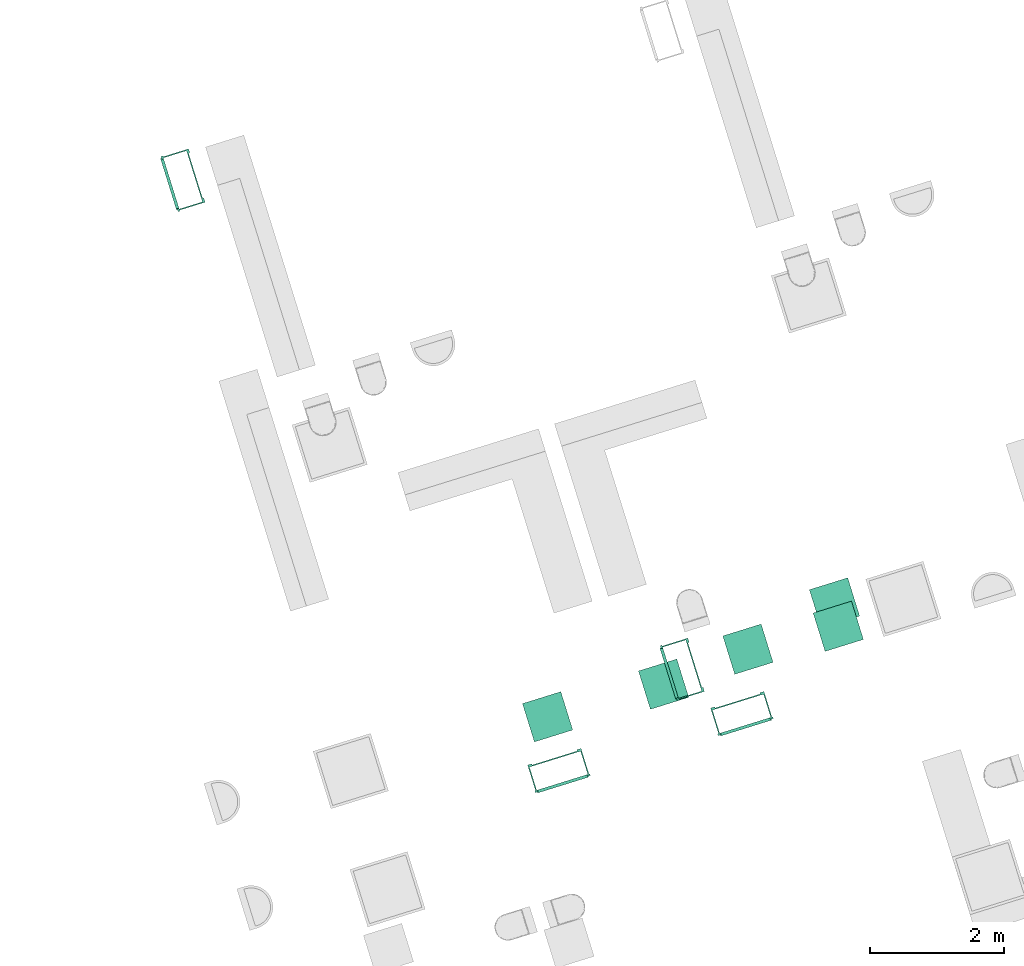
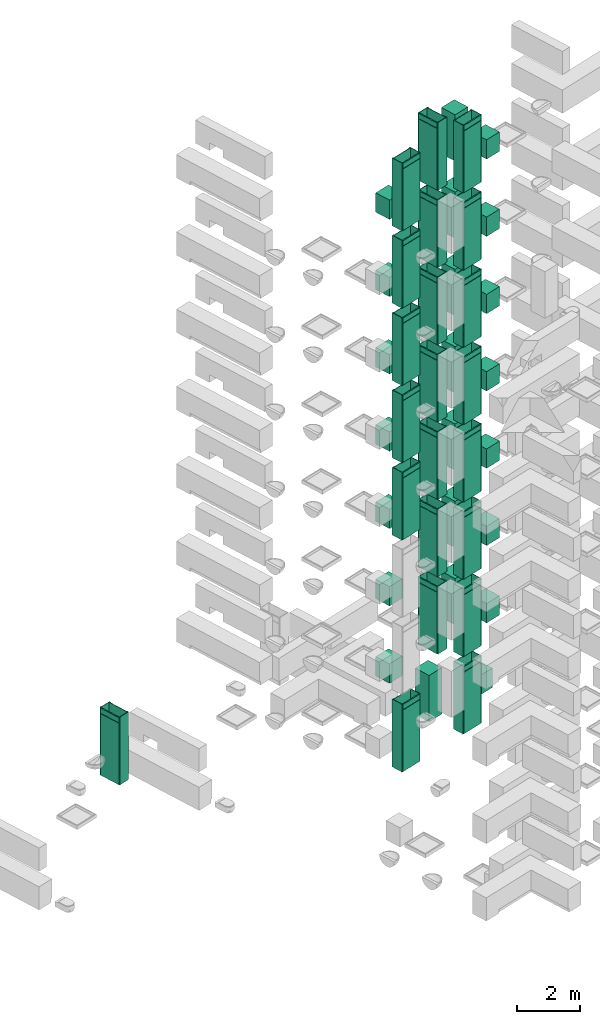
# Not in any storey, part 4 of 20: 22 distribution chamber elements, 15 electric appliances, 8 boilers.
"""IFC4 model written with IfcOpenShell, lengths in metres."""

import ifcopenshell
import ifcopenshell.guid

model = None  # the IFC model being written
_history = None  # IfcOwnerHistory: only IFC2X3 demands one
_inside = {}  # id of a spatial element -> (the spatial element, [elements in it])
_under = {}  # id of a project, library or spatial element -> (it, [spatial elements below it])
_declared = {}  # id of a project -> (the project, [libraries it declares])
_typed = {}  # id of a type object -> (the type object, [elements of that type])
_made_of = {}  # id of a material, layer set ... -> (it, [elements and type objects made of it])


def new_model(schema):
    """Start an empty IFC model of exactly this schema.

    Asked for "IFC4X3", IfcOpenShell would pick the latest addendum, in which some entities
    have other attributes; the version numbers below select the first issue.
    IFC2X3 requires an IfcOwnerHistory on every rooted entity: one is made here for all.
    """
    global model, _history
    if schema == "IFC4X3":
        model = ifcopenshell.file(schema_version=(4, 3, 0, 0))
    else:
        model = ifcopenshell.file(schema=schema)
    _inside.clear()
    _under.clear()
    _declared.clear()
    _typed.clear()
    _made_of.clear()
    _history = None
    if model.schema == "IFC2X3":
        org = make("IfcOrganization", Name="unknown")
        user = make(
            "IfcPersonAndOrganization",
            ThePerson=make("IfcPerson", FamilyName="unknown"),
            TheOrganization=org,
        )
        app = make(
            "IfcApplication",
            ApplicationDeveloper=org,
            Version="unknown",
            ApplicationFullName="unknown",
            ApplicationIdentifier="unknown",
        )
        _history = make(
            "IfcOwnerHistory",
            OwningUser=user,
            OwningApplication=app,
            ChangeAction="ADDED",
            CreationDate=0,
        )
    return model


def make(cls, **values):
    """One entity of the class cls with the attributes given. An attribute that is None is left unset."""
    return model.create_entity(
        cls, **{name: value for name, value in values.items() if value is not None}
    )


def entity(cls, *values):
    """Any entity or typed value of the class cls, its attributes in the order of the schema. None: left unset."""
    e = model.create_entity(cls)
    for i, value in enumerate(values):
        if value is not None:
            e[i] = value
    return e


def rooted(cls, **values):
    """An entity with a GlobalId (a new one), such as an element, a storey or a relation."""
    return make(cls, GlobalId=ifcopenshell.guid.new(), OwnerHistory=_history, **values)


def si_unit(unit_type, name, prefix=None):
    """IfcSIUnit, for example si_unit("LENGTHUNIT", "METRE", prefix="MILLI")."""
    return make("IfcSIUnit", UnitType=unit_type, Prefix=prefix, Name=name)


def converted_unit(unit_type, name, factor, base, dimensions=None, offset=None):
    """IfcConversionBasedUnit, such as the inch: factor (a typed value) times the base unit."""
    return make(
        "IfcConversionBasedUnit"
        if offset is None
        else "IfcConversionBasedUnitWithOffset",
        ConversionOffset=offset,
        Dimensions=None
        if dimensions is None
        else entity("IfcDimensionalExponents", *dimensions),
        UnitType=unit_type,
        Name=name,
        ConversionFactor=make(
            "IfcMeasureWithUnit", ValueComponent=factor, UnitComponent=base
        ),
    )


def assignment(units):
    """IfcUnitAssignment: the units of a project."""
    return None if units is None else make("IfcUnitAssignment", Units=units)


def point(xyz):
    """IfcCartesianPoint."""
    return None if xyz is None else make("IfcCartesianPoint", Coordinates=xyz)


def direction(xyz):
    """IfcDirection."""
    return None if xyz is None else make("IfcDirection", DirectionRatios=xyz)


def frame(location, z_axis=None, x_axis=None):
    """IfcAxis2Placement3D, a coordinate frame: its origin and axes. An axis left out is left unset."""
    return make(
        "IfcAxis2Placement3D",
        Location=point(location),
        Axis=direction(z_axis),
        RefDirection=direction(x_axis),
    )


def origin():
    """The frame at (0, 0, 0) with its axes left unset."""
    return frame((0.0, 0.0, 0.0))


def place(relative_to, where):
    """IfcLocalPlacement: puts the frame where relative to a parent placement (None: the world)."""
    return make(
        "IfcLocalPlacement", PlacementRelTo=relative_to, RelativePlacement=where
    )


def context(
    kind, dimensions, precision=None, world=None, true_north=None, identifier=None
):
    """IfcGeometricRepresentationContext, for example the 3D "Model" context."""
    return make(
        "IfcGeometricRepresentationContext",
        ContextIdentifier=identifier,
        ContextType=kind,
        CoordinateSpaceDimension=dimensions,
        Precision=precision,
        WorldCoordinateSystem=world,
        TrueNorth=true_north,
    )


def subcontext(parent, identifier, kind, view, scale=None):
    """IfcGeometricRepresentationSubContext, for example "Body" below "Model"."""
    return make(
        "IfcGeometricRepresentationSubContext",
        ContextIdentifier=identifier,
        ContextType=kind,
        ParentContext=parent,
        TargetScale=scale,
        TargetView=view,
    )


def project(units=None, contexts=None):
    """IfcProject with its units and contexts."""
    return rooted(
        "IfcProject",
        Name="project",
        RepresentationContexts=contexts,
        UnitsInContext=assignment(units),
    )


def point_list(points):
    """IfcCartesianPointList2D or 3D."""
    cls = (
        "IfcCartesianPointList2D" if len(points[0]) == 2 else "IfcCartesianPointList3D"
    )
    return make(cls, CoordList=points)


def indexed_curve(points, segments=None, self_intersect=None):
    """IfcIndexedPolyCurve: lines and arcs through numbered points (the first is 1)."""
    return make(
        "IfcIndexedPolyCurve",
        Points=point_list(points),
        Segments=segments,
        SelfIntersect=self_intersect,
    )


def outline(outer, holes=None, kind="AREA"):
    """IfcArbitraryClosedProfileDef: a profile drawn as a closed curve; with holes, ...WithVoids."""
    if holes is None:
        return make("IfcArbitraryClosedProfileDef", ProfileType=kind, OuterCurve=outer)
    return make(
        "IfcArbitraryProfileDefWithVoids",
        ProfileType=kind,
        OuterCurve=outer,
        InnerCurves=holes,
    )


def extrude(swept, where, along, depth):
    """IfcExtrudedAreaSolid: the profile swept, set in the frame where, extruded along a direction by depth."""
    return make(
        "IfcExtrudedAreaSolid",
        SweptArea=swept,
        Position=where,
        ExtrudedDirection=direction(along),
        Depth=depth,
    )


def shape(context_of_items, identifier, shape_type, items):
    """IfcShapeRepresentation: the items that make up one representation, for example the "Body"."""
    return make(
        "IfcShapeRepresentation",
        ContextOfItems=context_of_items,
        RepresentationIdentifier=identifier,
        RepresentationType=shape_type,
        Items=items,
    )


def source(mapping_origin, context_of_items, identifier, shape_type, items):
    """IfcRepresentationMap: a shape defined once, which mapped items show again and again."""
    return make(
        "IfcRepresentationMap",
        MappingOrigin=mapping_origin,
        MappedRepresentation=shape(context_of_items, identifier, shape_type, items),
    )


def transform(
    local_origin,
    x_axis=None,
    y_axis=None,
    z_axis=None,
    scale=None,
    scale2=None,
    scale3=None,
    uniform=True,
):
    """IfcCartesianTransformationOperator3D, or its non-uniform kind. x_axis, y_axis, z_axis: its Axis1, 2, 3."""
    if uniform:
        return make(
            "IfcCartesianTransformationOperator3D",
            Axis1=direction(x_axis),
            Axis2=direction(y_axis),
            LocalOrigin=point(local_origin),
            Scale=scale,
            Axis3=direction(z_axis),
        )
    return make(
        "IfcCartesianTransformationOperator3DnonUniform",
        Axis1=direction(x_axis),
        Axis2=direction(y_axis),
        LocalOrigin=point(local_origin),
        Scale=scale,
        Axis3=direction(z_axis),
        Scale2=scale2,
        Scale3=scale3,
    )


def mapped(mapping_source, mapping_target):
    """IfcMappedItem: shows the shape of a source again, moved by a transform."""
    return make(
        "IfcMappedItem", MappingSource=mapping_source, MappingTarget=mapping_target
    )


def material(Name=None, Category=None):
    """IfcMaterial."""
    return make("IfcMaterial", Name=Name, Category=Category)


def made_of(thing, what):
    """Note that an element or type object is made of a material, layer set ...; save() writes the relation."""
    if what is not None:
        _made_of.setdefault(what.id(), (what, []))[1].append(thing)
    return thing


def type_object(cls, material=None, **own):
    """A type object (cls), such as IfcWallType, which elements share."""
    return made_of(rooted(cls, **own), material)


def type_shapes(of_type, sources):
    """Give a type object the sources (RepresentationMaps) that its elements show as mapped items."""
    of_type.RepresentationMaps = sources


def element(
    cls,
    number,
    at=None,
    inside=None,
    cuts=None,
    type_object=None,
    material=None,
    context=None,
    identifier="Body",
    shape_type=None,
    held_by="IfcProductDefinitionShape",
    body=None,
    shapes=None,
    **own,
):
    """One element of the class cls, such as IfcWall. Its Tag is "e" and its number.

    at: its placement. inside: the storey or other place that contains it. cuts: it is an
    opening in that element (IfcRelVoidsElement). A single representation is given by context,
    identifier, shape_type and body (its items); several are given by shapes. held_by: the class
    of the entity that holds the representations. save() writes the other relations.
    """
    e = rooted(cls, Tag="e%d" % number, ObjectPlacement=at, **own)
    if body is not None:
        shapes = [shape(context, identifier, shape_type, body)]
    if shapes is not None:
        e.Representation = make(held_by, Representations=shapes)
    if inside is not None:
        _inside.setdefault(inside.id(), (inside, []))[1].append(e)
    if cuts is not None:
        rooted(
            "IfcRelVoidsElement", RelatingBuildingElement=cuts, RelatedOpeningElement=e
        )
    if type_object is not None:
        _typed.setdefault(type_object.id(), (type_object, []))[1].append(e)
    return made_of(e, material)


def aggregate(whole, parts):
    """IfcRelAggregates: a whole, such as a stair, and the parts it consists of."""
    return rooted("IfcRelAggregates", RelatingObject=whole, RelatedObjects=parts)


def save(model, path):
    """Write the relations noted so far, then the file.

    IfcRelAggregates (storeys below a building ...), IfcRelContainedInSpatialStructure (elements
    in a storey), IfcRelDefinesByType, IfcRelAssociatesMaterial and IfcRelDeclares: one each for
    every whole, place, type object, material and project.
    """
    for whole, parts in _under.values():
        aggregate(whole, parts)
    for where, things in _inside.values():
        rooted(
            "IfcRelContainedInSpatialStructure",
            RelatedElements=things,
            RelatingStructure=where,
        )
    for kind, things in _typed.values():
        rooted("IfcRelDefinesByType", RelatedObjects=things, RelatingType=kind)
    for what, things in _made_of.values():
        rooted("IfcRelAssociatesMaterial", RelatedObjects=things, RelatingMaterial=what)
    for by, libraries in _declared.values():
        rooted("IfcRelDeclares", RelatingContext=by, RelatedDefinitions=libraries)
    model.write(path)


model = new_model("IFC4")

# Units and contexts
model_context = context("Model", 3, precision=1e-05, world=origin(), true_north=direction((6.12323399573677e-17, 1.0)))
body_context = subcontext(model_context, "Body", "Model", "MODEL_VIEW")
ifc_project = project(units=[si_unit("LENGTHUNIT", "METRE"), si_unit("AREAUNIT", "SQUARE_METRE"), si_unit("VOLUMEUNIT", "CUBIC_METRE"), converted_unit("PLANEANGLEUNIT", "DEGREE", entity("IfcPlaneAngleMeasure", 0.0174532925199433), si_unit("PLANEANGLEUNIT", "RADIAN"), dimensions=[0, 0, 0, 0, 0, 0, 0])], contexts=[model_context])

# Distribution chamber elements
ifc_material = material(Name="<Unnamed>")
distribution_chamber_element_type = type_object("IfcDistributionChamberElementType", Name="NLRS_61_GM_UN_Jonka meterkast_gen:Jonka_kast", PredefinedType="METERCHAMBER", material=ifc_material)
shared_shape_1 = source(origin(), body_context, "Body", "SweptSolid", [
    extrude(outline(indexed_curve([(-0.00925000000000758, -0.0230000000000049), (0.0177500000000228, -0.0230000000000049), (0.0177500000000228, 0.0230000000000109), (-0.00925000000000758, 0.0230000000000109), (-0.00925000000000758, 0.00899999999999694), (0.000749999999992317, 0.00899999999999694), (0.000749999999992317, -0.00900000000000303), (-0.00925000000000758, -0.00900000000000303), (-0.00925000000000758, -0.0230000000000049)], self_intersect=False)), frame((-0.408999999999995, -0.409249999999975, 0.0), z_axis=(0.0, 0.0, 1.0), x_axis=(0.0, -1.0, 0.0)), (0.0, 0.0, 1.0), 2.63),
    extrude(outline(indexed_curve([(-0.0092500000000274, -0.0230000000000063), (0.0177500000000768, -0.0230000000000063), (0.0177500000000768, 0.0229999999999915), (-0.00925000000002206, 0.0229999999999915), (-0.00925000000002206, 0.00900000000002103), (0.000749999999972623, 0.00900000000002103), (0.000749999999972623, -0.00900000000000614), (-0.0092500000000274, -0.00900000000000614), (-0.0092500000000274, -0.0230000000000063)], self_intersect=False)), frame((0.409000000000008, -0.409249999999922, 0.0), z_axis=(0.0, 0.0, 1.0), x_axis=(0.0, -1.0, 0.0)), (0.0, 0.0, 1.0), 2.63),
    extrude(outline(indexed_curve([(-0.204999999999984, -0.00899999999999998), (0.204999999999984, -0.00899999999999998), (0.204999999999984, 0.00899999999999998), (-0.204999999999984, 0.00899999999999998), (-0.204999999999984, -0.00899999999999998)], self_intersect=False)), frame((-0.408999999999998, -0.204999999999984, 0.0), z_axis=(0.0, 0.0, 1.0), x_axis=(0.0, -1.0, 0.0)), (0.0, 0.0, 1.0), 2.63),
    extrude(outline(indexed_curve([(-0.204999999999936, -0.00900000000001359), (0.204999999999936, -0.00900000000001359), (0.204999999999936, 0.00900000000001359), (-0.204999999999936, 0.00900000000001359), (-0.204999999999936, -0.00900000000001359)], self_intersect=False)), frame((0.409000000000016, -0.204999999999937, 0.0), z_axis=(0.0, 0.0, 1.0), x_axis=(0.0, -1.0, 0.0)), (0.0, 0.0, 1.0), 2.63),
    extrude(outline(indexed_curve([(-0.399999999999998, -0.00799999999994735), (0.399999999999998, -0.00799999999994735), (0.399999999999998, 0.00799999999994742), (-0.399999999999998, 0.00799999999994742), (-0.399999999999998, -0.00799999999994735)], self_intersect=False)), frame((0.0, -0.434999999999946, 0.00999999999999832), z_axis=(0.0, 0.0, 1.0), x_axis=(-1.0, 0.0, 0.0)), (0.0, 0.0, 1.0), 2.39),
    extrude(outline(indexed_curve([(-0.400000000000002, -0.00899999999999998), (0.400000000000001, -0.00899999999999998), (0.400000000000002, 0.00899999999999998), (-0.400000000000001, 0.00899999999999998), (-0.400000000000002, -0.00899999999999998)], self_intersect=False)), frame((0.0, -0.0280000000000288, 0.0), z_axis=(0.0, 0.0, 1.0), x_axis=(-1.0, 0.0, 0.0)), (0.0, 0.0, 1.0), 2.63),
    extrude(outline(indexed_curve([(-0.023, -0.0095), (0.023, -0.0095), (0.023, 0.0095), (-0.023, 0.0095), (-0.023, -0.0095)], self_intersect=False)), frame((-0.376999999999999, -0.0095, 0.0), z_axis=(0.0, 0.0, 1.0), x_axis=(-1.0, 0.0, 0.0)), (0.0, 0.0, 1.0), 2.63),
    extrude(outline(indexed_curve([(-0.022999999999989, -0.0095), (0.022999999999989, -0.0095), (0.022999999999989, 0.0095), (-0.022999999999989, 0.0095), (-0.022999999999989, -0.0095)], self_intersect=False)), frame((0.377000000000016, -0.00950000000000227, 0.0), z_axis=(0.0, 0.0, 1.0), x_axis=(-1.0, 0.0, 0.0)), (0.0, 0.0, 1.0), 2.63),
    extrude(outline(indexed_curve([(-0.399999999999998, -0.00799999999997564), (0.399999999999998, -0.00799999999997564), (0.399999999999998, 0.00799999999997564), (-0.399999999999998, 0.00799999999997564), (-0.399999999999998, -0.00799999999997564)], self_intersect=False)), frame((0.0, -0.434999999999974, 2.41800000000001), z_axis=(0.0, 0.0, 1.0), x_axis=(-1.0, 0.0, 0.0)), (0.0, 0.0, 1.0), 0.197000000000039),
    extrude(outline(indexed_curve([(-0.0230000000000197, -0.0177500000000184), (0.0230000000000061, -0.0177500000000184), (0.0230000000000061, 0.00925000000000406), (0.00900000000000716, 0.00925000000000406), (0.00900000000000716, -0.00074999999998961), (-0.00899999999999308, -0.00074999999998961), (-0.00899999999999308, 0.00925000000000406), (-0.0230000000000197, 0.00925000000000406), (-0.0230000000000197, -0.0177500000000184)], self_intersect=False)), frame((-0.386, -0.409249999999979, 2.59200000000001), z_axis=(1.0, 0.0, 0.0), x_axis=(0.0, 0.0, -1.0)), (0.0, 0.0, 1.0), 0.772),
    extrude(outline(indexed_curve([(-0.0229999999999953, -0.0177500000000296), (0.0229999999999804, -0.0177500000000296), (0.0229999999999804, 0.00925000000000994), (0.00900000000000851, 0.00925000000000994), (0.00900000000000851, -0.000749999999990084), (-0.00899999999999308, -0.000749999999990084), (-0.00899999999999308, 0.00925000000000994), (-0.0229999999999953, 0.00925000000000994), (-0.0229999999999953, -0.0177500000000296)], self_intersect=False)), frame((-0.386, -0.40924999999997, 2.40900000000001), z_axis=(1.0, 0.0, 0.0), x_axis=(0.0, 0.0, -1.0)), (0.0, 0.0, 1.0), 0.772),
    extrude(outline(indexed_curve([(-0.0230000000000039, -0.0177500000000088), (0.0230000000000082, -0.0177500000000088), (0.0230000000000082, 0.00925000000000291), (0.00899999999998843, 0.00925000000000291), (0.00899999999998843, -0.000749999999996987), (-0.00899999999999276, -0.000749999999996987), (-0.00899999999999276, 0.00925000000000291), (-0.0230000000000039, 0.00925000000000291), (-0.0230000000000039, -0.0177500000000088)], self_intersect=False)), frame((-0.386, -0.409249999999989, 0.0229999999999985), z_axis=(1.0, 0.0, 0.0), x_axis=(0.0, 0.0, -1.0)), (0.0, 0.0, 1.0), 0.772),
])
type_shapes(distribution_chamber_element_type, [shared_shape_1])
placement_1 = place(None, frame((13.1347999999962, 11.9886000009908, 0.0), z_axis=(0.0, 0.0, 1.0), x_axis=(0.954770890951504, 0.297342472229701, 0.0)))
placement_2 = place(placement_1, origin())
placement_3 = place(placement_2, origin())
placement_4 = place(placement_3, origin())
distribution_chamber_element_1_placement = place(placement_4, frame((12.3750000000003, 31.957, 0.0), z_axis=(0.0, 0.0, 1.0), x_axis=(0.0, -1.0, 0.0)))
element("IfcDistributionChamberElement", 1, at=distribution_chamber_element_1_placement, type_object=distribution_chamber_element_type, material=ifc_material, Name="NLRS_61_GM_UN_Jonka meterkast_gen:Jonka_kast", ObjectType="NLRS_61_GM_UN_Jonka meterkast_gen:Jonka_kast", PredefinedType="METERCHAMBER", context=body_context, shape_type="MappedRepresentation", body=[
    mapped(shared_shape_1, transform((0.0, 0.0, 0.0), scale=1.0)),
])
placement_5 = place(placement_2, frame((0.0, 0.0, 6.9)))
placement_6 = place(placement_5, origin())
distribution_chamber_element_2_placement = place(placement_6, frame((17.3250000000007, 22.7570000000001, 0.0), z_axis=(0.0, 0.0, 1.0), x_axis=(0.0, -1.0, 0.0)))
element("IfcDistributionChamberElement", 2, at=distribution_chamber_element_2_placement, type_object=distribution_chamber_element_type, material=ifc_material, Name="NLRS_61_GM_UN_Jonka meterkast_gen:Jonka_kast", ObjectType="NLRS_61_GM_UN_Jonka meterkast_gen:Jonka_kast", PredefinedType="METERCHAMBER", context=body_context, shape_type="MappedRepresentation", body=[
    mapped(shared_shape_1, transform((0.0, 0.0, 0.0), scale=1.0)),
])
placement_7 = place(placement_2, frame((0.0, 0.0, 9.9)))
placement_8 = place(placement_7, origin())
distribution_chamber_element_3_placement = place(placement_8, frame((17.3250000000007, 22.7570000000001, 0.0), z_axis=(0.0, 0.0, 1.0), x_axis=(0.0, -1.0, 0.0)))
element("IfcDistributionChamberElement", 3, at=distribution_chamber_element_3_placement, type_object=distribution_chamber_element_type, material=ifc_material, Name="NLRS_61_GM_UN_Jonka meterkast_gen:Jonka_kast", ObjectType="NLRS_61_GM_UN_Jonka meterkast_gen:Jonka_kast", PredefinedType="METERCHAMBER", context=body_context, shape_type="MappedRepresentation", body=[
    mapped(shared_shape_1, transform((0.0, 0.0, 0.0), scale=1.0)),
])
placement_9 = place(placement_2, frame((0.0, 0.0, 12.9)))
placement_10 = place(placement_9, origin())
distribution_chamber_element_4_placement = place(placement_10, frame((17.3250000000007, 22.7570000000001, 0.0), z_axis=(0.0, 0.0, 1.0), x_axis=(0.0, -1.0, 0.0)))
element("IfcDistributionChamberElement", 4, at=distribution_chamber_element_4_placement, type_object=distribution_chamber_element_type, material=ifc_material, Name="NLRS_61_GM_UN_Jonka meterkast_gen:Jonka_kast", ObjectType="NLRS_61_GM_UN_Jonka meterkast_gen:Jonka_kast", PredefinedType="METERCHAMBER", context=body_context, shape_type="MappedRepresentation", body=[
    mapped(shared_shape_1, transform((0.0, 0.0, 0.0), scale=1.0)),
])
placement_11 = place(placement_2, frame((0.0, 0.0, 15.9)))
placement_12 = place(placement_11, origin())
distribution_chamber_element_5_placement = place(placement_12, frame((17.3250000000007, 22.7570000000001, 0.0), z_axis=(0.0, 0.0, 1.0), x_axis=(0.0, -1.0, 0.0)))
element("IfcDistributionChamberElement", 5, at=distribution_chamber_element_5_placement, type_object=distribution_chamber_element_type, material=ifc_material, Name="NLRS_61_GM_UN_Jonka meterkast_gen:Jonka_kast", ObjectType="NLRS_61_GM_UN_Jonka meterkast_gen:Jonka_kast", PredefinedType="METERCHAMBER", context=body_context, shape_type="MappedRepresentation", body=[
    mapped(shared_shape_1, transform((0.0, 0.0, 0.0), scale=1.0)),
])
placement_13 = place(placement_2, frame((0.0, 0.0, 18.9)))
placement_14 = place(placement_13, origin())
distribution_chamber_element_6_placement = place(placement_14, frame((17.3250000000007, 22.7570000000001, 0.0), z_axis=(0.0, 0.0, 1.0), x_axis=(0.0, -1.0, 0.0)))
element("IfcDistributionChamberElement", 6, at=distribution_chamber_element_6_placement, type_object=distribution_chamber_element_type, material=ifc_material, Name="NLRS_61_GM_UN_Jonka meterkast_gen:Jonka_kast", ObjectType="NLRS_61_GM_UN_Jonka meterkast_gen:Jonka_kast", PredefinedType="METERCHAMBER", context=body_context, shape_type="MappedRepresentation", body=[
    mapped(shared_shape_1, transform((0.0, 0.0, 0.0), scale=1.0)),
])
placement_15 = place(placement_2, frame((0.0, 0.0, 21.9)))
placement_16 = place(placement_15, origin())
distribution_chamber_element_7_placement = place(placement_16, frame((17.3250000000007, 22.7570000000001, 0.0), z_axis=(0.0, 0.0, 1.0), x_axis=(0.0, -1.0, 0.0)))
element("IfcDistributionChamberElement", 7, at=distribution_chamber_element_7_placement, type_object=distribution_chamber_element_type, material=ifc_material, Name="NLRS_61_GM_UN_Jonka meterkast_gen:Jonka_kast", ObjectType="NLRS_61_GM_UN_Jonka meterkast_gen:Jonka_kast", PredefinedType="METERCHAMBER", context=body_context, shape_type="MappedRepresentation", body=[
    mapped(shared_shape_1, transform((0.0, 0.0, 0.0), scale=1.0)),
])
placement_17 = place(placement_2, frame((0.0, 0.0, 24.9)))
placement_18 = place(placement_17, origin())
distribution_chamber_element_8_placement = place(placement_18, frame((17.3250000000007, 22.7570000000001, 0.0), z_axis=(0.0, 0.0, 1.0), x_axis=(0.0, -1.0, 0.0)))
element("IfcDistributionChamberElement", 8, at=distribution_chamber_element_8_placement, type_object=distribution_chamber_element_type, material=ifc_material, Name="NLRS_61_GM_UN_Jonka meterkast_gen:Jonka_kast", ObjectType="NLRS_61_GM_UN_Jonka meterkast_gen:Jonka_kast", PredefinedType="METERCHAMBER", context=body_context, shape_type="MappedRepresentation", body=[
    mapped(shared_shape_1, transform((0.0, 0.0, 0.0), scale=1.0)),
])
placement_19 = place(placement_9, origin())
distribution_chamber_element_9_placement = place(placement_19, frame((14.8930000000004, 22.0750000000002, 0.0)))
element("IfcDistributionChamberElement", 9, at=distribution_chamber_element_9_placement, type_object=distribution_chamber_element_type, material=ifc_material, Name="NLRS_61_GM_UN_Jonka meterkast_gen:Jonka_kast", ObjectType="NLRS_61_GM_UN_Jonka meterkast_gen:Jonka_kast", PredefinedType="METERCHAMBER", context=body_context, shape_type="MappedRepresentation", body=[
    mapped(shared_shape_1, transform((0.0, 0.0, 0.0), scale=1.0)),
])
placement_20 = place(placement_11, origin())
distribution_chamber_element_10_placement = place(placement_20, frame((14.8930000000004, 22.0750000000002, 0.0)))
element("IfcDistributionChamberElement", 10, at=distribution_chamber_element_10_placement, type_object=distribution_chamber_element_type, material=ifc_material, Name="NLRS_61_GM_UN_Jonka meterkast_gen:Jonka_kast", ObjectType="NLRS_61_GM_UN_Jonka meterkast_gen:Jonka_kast", PredefinedType="METERCHAMBER", context=body_context, shape_type="MappedRepresentation", body=[
    mapped(shared_shape_1, transform((0.0, 0.0, 0.0), scale=1.0)),
])
placement_21 = place(placement_13, origin())
distribution_chamber_element_11_placement = place(placement_21, frame((14.8930000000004, 22.0750000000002, 0.0)))
element("IfcDistributionChamberElement", 11, at=distribution_chamber_element_11_placement, type_object=distribution_chamber_element_type, material=ifc_material, Name="NLRS_61_GM_UN_Jonka meterkast_gen:Jonka_kast", ObjectType="NLRS_61_GM_UN_Jonka meterkast_gen:Jonka_kast", PredefinedType="METERCHAMBER", context=body_context, shape_type="MappedRepresentation", body=[
    mapped(shared_shape_1, transform((0.0, 0.0, 0.0), scale=1.0)),
])
placement_22 = place(placement_15, origin())
distribution_chamber_element_12_placement = place(placement_22, frame((14.8930000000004, 22.0750000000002, 0.0)))
element("IfcDistributionChamberElement", 12, at=distribution_chamber_element_12_placement, type_object=distribution_chamber_element_type, material=ifc_material, Name="NLRS_61_GM_UN_Jonka meterkast_gen:Jonka_kast", ObjectType="NLRS_61_GM_UN_Jonka meterkast_gen:Jonka_kast", PredefinedType="METERCHAMBER", context=body_context, shape_type="MappedRepresentation", body=[
    mapped(shared_shape_1, transform((0.0, 0.0, 0.0), scale=1.0)),
])
placement_23 = place(placement_17, origin())
distribution_chamber_element_13_placement = place(placement_23, frame((14.8930000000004, 22.0750000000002, 0.0)))
element("IfcDistributionChamberElement", 13, at=distribution_chamber_element_13_placement, type_object=distribution_chamber_element_type, material=ifc_material, Name="NLRS_61_GM_UN_Jonka meterkast_gen:Jonka_kast", ObjectType="NLRS_61_GM_UN_Jonka meterkast_gen:Jonka_kast", PredefinedType="METERCHAMBER", context=body_context, shape_type="MappedRepresentation", body=[
    mapped(shared_shape_1, transform((0.0, 0.0, 0.0), scale=1.0)),
])
placement_24 = place(placement_2, frame((0.0, 0.0, 3.9)))
placement_25 = place(placement_24, origin())
distribution_chamber_element_14_placement = place(placement_25, frame((14.8930000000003, 22.0749999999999, 0.0)))
element("IfcDistributionChamberElement", 14, at=distribution_chamber_element_14_placement, type_object=distribution_chamber_element_type, material=ifc_material, Name="NLRS_61_GM_UN_Jonka meterkast_gen:Jonka_kast", ObjectType="NLRS_61_GM_UN_Jonka meterkast_gen:Jonka_kast", PredefinedType="METERCHAMBER", context=body_context, shape_type="MappedRepresentation", body=[
    mapped(shared_shape_1, transform((0.0, 0.0, 0.0), scale=1.0)),
])

# Boilers
boiler_type = type_object("IfcBoilerType", Name="NLRS_51_ME_WB_warmtepomp_gen:generiek", PredefinedType="NOTDEFINED", material=ifc_material)
shared_shape_2 = source(origin(), body_context, "Body", "SweptSolid", [
    extrude(outline(indexed_curve([(-0.299999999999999, -0.300000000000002), (0.299999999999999, -0.300000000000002), (0.299999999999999, 0.300000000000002), (-0.299999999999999, 0.300000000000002), (-0.299999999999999, -0.300000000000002)], self_intersect=False)), frame((0.124999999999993, 0.350000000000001, 0.6), z_axis=(0.0, 0.0, 1.0), x_axis=(-1.0, 0.0, 0.0)), (0.0, 0.0, 1.0), 1.8),
])
type_shapes(boiler_type, [shared_shape_2])
placement_26 = place(placement_5, origin())
boiler_1_placement = place(placement_26, frame((17.7840000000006, 22.8750000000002, 0.0), z_axis=(0.0, 0.0, 1.0), x_axis=(0.0, -1.0, 0.0)))
element("IfcBoiler", 15, at=boiler_1_placement, type_object=boiler_type, material=ifc_material, Name="NLRS_51_ME_WB_warmtepomp_gen:generiek", ObjectType="NLRS_51_ME_WB_warmtepomp_gen:generiek", PredefinedType="NOTDEFINED", context=body_context, shape_type="MappedRepresentation", body=[
    mapped(shared_shape_2, transform((0.0, 0.0, 0.0), scale=1.0)),
])
placement_27 = place(placement_7, origin())
boiler_2_placement = place(placement_27, frame((17.7840000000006, 22.8750000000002, 0.0), z_axis=(0.0, 0.0, 1.0), x_axis=(0.0, -1.0, 0.0)))
element("IfcBoiler", 16, at=boiler_2_placement, type_object=boiler_type, material=ifc_material, Name="NLRS_51_ME_WB_warmtepomp_gen:generiek", ObjectType="NLRS_51_ME_WB_warmtepomp_gen:generiek", PredefinedType="NOTDEFINED", context=body_context, shape_type="MappedRepresentation", body=[
    mapped(shared_shape_2, transform((0.0, 0.0, 0.0), scale=1.0)),
])
placement_28 = place(placement_9, origin())
boiler_3_placement = place(placement_28, frame((17.7840000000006, 22.8750000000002, 0.0), z_axis=(0.0, 0.0, 1.0), x_axis=(0.0, -1.0, 0.0)))
element("IfcBoiler", 17, at=boiler_3_placement, type_object=boiler_type, material=ifc_material, Name="NLRS_51_ME_WB_warmtepomp_gen:generiek", ObjectType="NLRS_51_ME_WB_warmtepomp_gen:generiek", PredefinedType="NOTDEFINED", context=body_context, shape_type="MappedRepresentation", body=[
    mapped(shared_shape_2, transform((0.0, 0.0, 0.0), scale=1.0)),
])
placement_29 = place(placement_11, origin())
boiler_4_placement = place(placement_29, frame((17.7840000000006, 22.8750000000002, 0.0), z_axis=(0.0, 0.0, 1.0), x_axis=(0.0, -1.0, 0.0)))
element("IfcBoiler", 18, at=boiler_4_placement, type_object=boiler_type, material=ifc_material, Name="NLRS_51_ME_WB_warmtepomp_gen:generiek", ObjectType="NLRS_51_ME_WB_warmtepomp_gen:generiek", PredefinedType="NOTDEFINED", context=body_context, shape_type="MappedRepresentation", body=[
    mapped(shared_shape_2, transform((0.0, 0.0, 0.0), scale=1.0)),
])
placement_30 = place(placement_13, origin())
boiler_5_placement = place(placement_30, frame((17.7840000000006, 22.8750000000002, 0.0), z_axis=(0.0, 0.0, 1.0), x_axis=(0.0, -1.0, 0.0)))
element("IfcBoiler", 19, at=boiler_5_placement, type_object=boiler_type, material=ifc_material, Name="NLRS_51_ME_WB_warmtepomp_gen:generiek", ObjectType="NLRS_51_ME_WB_warmtepomp_gen:generiek", PredefinedType="NOTDEFINED", context=body_context, shape_type="MappedRepresentation", body=[
    mapped(shared_shape_2, transform((0.0, 0.0, 0.0), scale=1.0)),
])
placement_31 = place(placement_15, origin())
boiler_6_placement = place(placement_31, frame((17.7840000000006, 22.8750000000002, 0.0), z_axis=(0.0, 0.0, 1.0), x_axis=(0.0, -1.0, 0.0)))
element("IfcBoiler", 20, at=boiler_6_placement, type_object=boiler_type, material=ifc_material, Name="NLRS_51_ME_WB_warmtepomp_gen:generiek", ObjectType="NLRS_51_ME_WB_warmtepomp_gen:generiek", PredefinedType="NOTDEFINED", context=body_context, shape_type="MappedRepresentation", body=[
    mapped(shared_shape_2, transform((0.0, 0.0, 0.0), scale=1.0)),
])
placement_32 = place(placement_17, origin())
boiler_7_placement = place(placement_32, frame((17.7840000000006, 22.8750000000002, 0.0), z_axis=(0.0, 0.0, 1.0), x_axis=(0.0, -1.0, 0.0)))
element("IfcBoiler", 21, at=boiler_7_placement, type_object=boiler_type, material=ifc_material, Name="NLRS_51_ME_WB_warmtepomp_gen:generiek", ObjectType="NLRS_51_ME_WB_warmtepomp_gen:generiek", PredefinedType="NOTDEFINED", context=body_context, shape_type="MappedRepresentation", body=[
    mapped(shared_shape_2, transform((0.0, 0.0, 0.0), scale=1.0)),
])

# Electric appliances
electric_appliance_type = type_object("IfcElectricApplianceType", Name="NLRS_85_SE_UN_opstelplaats wasmachine_gen:wasdroger", PredefinedType="TUMBLEDRYER", material=ifc_material)
shared_shape_3 = source(origin(), body_context, "Body", "SweptSolid", [
    extrude(outline(indexed_curve([(-0.299999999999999, -0.3), (0.299999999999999, -0.3), (0.299999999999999, 0.3), (-0.299999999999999, 0.3), (-0.299999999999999, -0.3)], self_intersect=False)), frame((0.0, 0.349999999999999, 0.0), z_axis=(0.0, 0.0, 1.0), x_axis=(0.0, 1.0, 0.0)), (0.0, 0.0, 1.0), 0.75026866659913),
])
type_shapes(electric_appliance_type, [shared_shape_3])
electric_appliance_1_placement = place(placement_26, frame((19.5250000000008, 22.3250000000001, 0.0)))
element("IfcElectricAppliance", 22, at=electric_appliance_1_placement, type_object=electric_appliance_type, material=ifc_material, Name="NLRS_85_SE_UN_opstelplaats wasmachine_gen:wasdroger", ObjectType="NLRS_85_SE_UN_opstelplaats wasmachine_gen:wasdroger", PredefinedType="TUMBLEDRYER", context=body_context, shape_type="MappedRepresentation", body=[
    mapped(shared_shape_3, transform((0.0, 0.0, 0.0), scale=1.0)),
])
electric_appliance_2_placement = place(placement_27, frame((19.5250000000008, 22.3250000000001, 0.0)))
element("IfcElectricAppliance", 23, at=electric_appliance_2_placement, type_object=electric_appliance_type, material=ifc_material, Name="NLRS_85_SE_UN_opstelplaats wasmachine_gen:wasdroger", ObjectType="NLRS_85_SE_UN_opstelplaats wasmachine_gen:wasdroger", PredefinedType="TUMBLEDRYER", context=body_context, shape_type="MappedRepresentation", body=[
    mapped(shared_shape_3, transform((0.0, 0.0, 0.0), scale=1.0)),
])
electric_appliance_3_placement = place(placement_28, frame((19.5250000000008, 22.3250000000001, 0.0)))
element("IfcElectricAppliance", 24, at=electric_appliance_3_placement, type_object=electric_appliance_type, material=ifc_material, Name="NLRS_85_SE_UN_opstelplaats wasmachine_gen:wasdroger", ObjectType="NLRS_85_SE_UN_opstelplaats wasmachine_gen:wasdroger", PredefinedType="TUMBLEDRYER", context=body_context, shape_type="MappedRepresentation", body=[
    mapped(shared_shape_3, transform((0.0, 0.0, 0.0), scale=1.0)),
])
electric_appliance_4_placement = place(placement_29, frame((19.5250000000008, 22.3250000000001, 0.0)))
element("IfcElectricAppliance", 25, at=electric_appliance_4_placement, type_object=electric_appliance_type, material=ifc_material, Name="NLRS_85_SE_UN_opstelplaats wasmachine_gen:wasdroger", ObjectType="NLRS_85_SE_UN_opstelplaats wasmachine_gen:wasdroger", PredefinedType="TUMBLEDRYER", context=body_context, shape_type="MappedRepresentation", body=[
    mapped(shared_shape_3, transform((0.0, 0.0, 0.0), scale=1.0)),
])
electric_appliance_5_placement = place(placement_30, frame((19.5250000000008, 22.3250000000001, 0.0)))
element("IfcElectricAppliance", 26, at=electric_appliance_5_placement, type_object=electric_appliance_type, material=ifc_material, Name="NLRS_85_SE_UN_opstelplaats wasmachine_gen:wasdroger", ObjectType="NLRS_85_SE_UN_opstelplaats wasmachine_gen:wasdroger", PredefinedType="TUMBLEDRYER", context=body_context, shape_type="MappedRepresentation", body=[
    mapped(shared_shape_3, transform((0.0, 0.0, 0.0), scale=1.0)),
])
electric_appliance_6_placement = place(placement_31, frame((19.5250000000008, 22.3250000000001, 0.0)))
element("IfcElectricAppliance", 27, at=electric_appliance_6_placement, type_object=electric_appliance_type, material=ifc_material, Name="NLRS_85_SE_UN_opstelplaats wasmachine_gen:wasdroger", ObjectType="NLRS_85_SE_UN_opstelplaats wasmachine_gen:wasdroger", PredefinedType="TUMBLEDRYER", context=body_context, shape_type="MappedRepresentation", body=[
    mapped(shared_shape_3, transform((0.0, 0.0, 0.0), scale=1.0)),
])
electric_appliance_7_placement = place(placement_32, frame((19.5250000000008, 22.3250000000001, 0.0)))
element("IfcElectricAppliance", 28, at=electric_appliance_7_placement, type_object=electric_appliance_type, material=ifc_material, Name="NLRS_85_SE_UN_opstelplaats wasmachine_gen:wasdroger", ObjectType="NLRS_85_SE_UN_opstelplaats wasmachine_gen:wasdroger", PredefinedType="TUMBLEDRYER", context=body_context, shape_type="MappedRepresentation", body=[
    mapped(shared_shape_3, transform((0.0, 0.0, 0.0), scale=1.0)),
])

# Distribution chamber elements
shared_shape_4 = source(origin(), body_context, "Body", "SweptSolid", [
    extrude(outline(indexed_curve([(-0.0230000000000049, -0.00925000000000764), (-0.00900000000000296, -0.00925000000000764), (-0.00900000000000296, 0.000749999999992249), (0.00899999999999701, 0.000749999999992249), (0.00899999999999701, -0.00925000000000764), (0.023000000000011, -0.00925000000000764), (0.023000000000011, 0.0177500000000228), (-0.0230000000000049, 0.0177500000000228), (-0.0230000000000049, -0.00925000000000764)], self_intersect=False)), frame((-0.408999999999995, 0.409249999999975, 0.0)), (0.0, 0.0, 1.0), 2.63),
    extrude(outline(indexed_curve([(-0.0230000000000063, -0.00925000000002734), (-0.00900000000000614, -0.00925000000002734), (-0.00900000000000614, 0.00074999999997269), (0.00900000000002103, 0.00074999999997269), (0.00900000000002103, -0.00925000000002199), (0.0229999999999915, -0.00925000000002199), (0.0229999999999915, 0.0177500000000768), (-0.0230000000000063, 0.0177500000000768), (-0.0230000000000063, -0.00925000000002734)], self_intersect=False)), frame((0.409000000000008, 0.409249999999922, 0.0)), (0.0, 0.0, 1.0), 2.63),
    extrude(outline(indexed_curve([(-0.00899999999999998, -0.204999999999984), (0.00899999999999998, -0.204999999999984), (0.00899999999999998, 0.204999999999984), (-0.00899999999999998, 0.204999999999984), (-0.00899999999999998, -0.204999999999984)], self_intersect=False)), frame((-0.408999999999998, 0.204999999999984, 0.0)), (0.0, 0.0, 1.0), 2.63),
    extrude(outline(indexed_curve([(-0.00900000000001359, -0.204999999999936), (0.00900000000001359, -0.204999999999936), (0.00900000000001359, 0.204999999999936), (-0.00900000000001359, 0.204999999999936), (-0.00900000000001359, -0.204999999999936)], self_intersect=False)), frame((0.409000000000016, 0.204999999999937, 0.0)), (0.0, 0.0, 1.0), 2.63),
    extrude(outline(indexed_curve([(-0.00799999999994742, -0.399999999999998), (0.00799999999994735, -0.399999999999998), (0.00799999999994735, 0.399999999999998), (-0.00799999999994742, 0.399999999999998), (-0.00799999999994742, -0.399999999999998)], self_intersect=False)), frame((0.0, 0.434999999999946, 0.00999999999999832), z_axis=(0.0, 0.0, 1.0), x_axis=(0.0, 1.0, 0.0)), (0.0, 0.0, 1.0), 2.39),
    extrude(outline(indexed_curve([(-0.0090000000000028, -0.400000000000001), (0.00899999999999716, -0.400000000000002), (0.0090000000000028, 0.400000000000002), (-0.00899999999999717, 0.400000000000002), (-0.0090000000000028, -0.400000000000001)], self_intersect=False)), frame((0.0, 0.0280000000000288, 0.0), z_axis=(0.0, 0.0, 1.0), x_axis=(0.0, 1.0, 0.0)), (0.0, 0.0, 1.0), 2.63),
    extrude(outline(indexed_curve([(-0.0095, -0.023), (0.0095, -0.023), (0.0095, 0.023), (-0.0095, 0.023), (-0.0095, -0.023)], self_intersect=False)), frame((-0.376999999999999, 0.0095, 0.0), z_axis=(0.0, 0.0, 1.0), x_axis=(0.0, 1.0, 0.0)), (0.0, 0.0, 1.0), 2.63),
    extrude(outline(indexed_curve([(-0.0095, -0.022999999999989), (0.0095, -0.022999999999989), (0.0095, 0.022999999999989), (-0.0095, 0.022999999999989), (-0.0095, -0.022999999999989)], self_intersect=False)), frame((0.377000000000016, 0.00950000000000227, 0.0), z_axis=(0.0, 0.0, 1.0), x_axis=(0.0, 1.0, 0.0)), (0.0, 0.0, 1.0), 2.63),
    extrude(outline(indexed_curve([(-0.00799999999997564, -0.399999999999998), (0.00799999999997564, -0.399999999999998), (0.00799999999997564, 0.399999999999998), (-0.00799999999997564, 0.399999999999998), (-0.00799999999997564, -0.399999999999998)], self_intersect=False)), frame((0.0, 0.434999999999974, 2.41800000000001), z_axis=(0.0, 0.0, 1.0), x_axis=(0.0, 1.0, 0.0)), (0.0, 0.0, 1.0), 0.197000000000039),
    extrude(outline(indexed_curve([(-0.0177500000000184, -0.0230000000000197), (0.00925000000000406, -0.0230000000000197), (0.00925000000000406, -0.00899999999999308), (-0.00074999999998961, -0.00899999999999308), (-0.00074999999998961, 0.00900000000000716), (0.00925000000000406, 0.00900000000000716), (0.00925000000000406, 0.0230000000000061), (-0.0177500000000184, 0.0230000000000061), (-0.0177500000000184, -0.0230000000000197)], self_intersect=False)), frame((-0.386, 0.409249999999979, 2.59200000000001), z_axis=(1.0, 0.0, 0.0), x_axis=(0.0, -1.0, 0.0)), (0.0, 0.0, 1.0), 0.772),
    extrude(outline(indexed_curve([(-0.0177500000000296, -0.0229999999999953), (0.00925000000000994, -0.0229999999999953), (0.00925000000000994, -0.00899999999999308), (-0.000749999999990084, -0.00899999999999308), (-0.000749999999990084, 0.00900000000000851), (0.00925000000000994, 0.00900000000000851), (0.00925000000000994, 0.0229999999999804), (-0.0177500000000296, 0.0229999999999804), (-0.0177500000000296, -0.0229999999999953)], self_intersect=False)), frame((-0.386, 0.40924999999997, 2.40900000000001), z_axis=(1.0, 0.0, 0.0), x_axis=(0.0, -1.0, 0.0)), (0.0, 0.0, 1.0), 0.772),
    extrude(outline(indexed_curve([(-0.0177500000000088, -0.0230000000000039), (0.00925000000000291, -0.0230000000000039), (0.00925000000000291, -0.00899999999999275), (-0.000749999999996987, -0.00899999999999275), (-0.000749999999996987, 0.00899999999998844), (0.00925000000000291, 0.00899999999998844), (0.00925000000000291, 0.0230000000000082), (-0.0177500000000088, 0.0230000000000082), (-0.0177500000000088, -0.0230000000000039)], self_intersect=False)), frame((-0.386, 0.409249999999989, 0.0229999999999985), z_axis=(1.0, 0.0, 0.0), x_axis=(0.0, -1.0, 0.0)), (0.0, 0.0, 1.0), 0.772),
])
placement_33 = place(placement_5, origin())
distribution_chamber_element_15_placement = place(placement_33, frame((17.7570000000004, 22.0749999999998, 0.0), z_axis=(0.0, 0.0, 1.0), x_axis=(-1.0, 0.0, 0.0)))
element("IfcDistributionChamberElement", 29, at=distribution_chamber_element_15_placement, type_object=distribution_chamber_element_type, material=ifc_material, Name="NLRS_61_GM_UN_Jonka meterkast_gen:Jonka_kast", ObjectType="NLRS_61_GM_UN_Jonka meterkast_gen:Jonka_kast", PredefinedType="METERCHAMBER", context=body_context, shape_type="MappedRepresentation", body=[
    mapped(shared_shape_4, transform((0.0, 0.0, 0.0), scale=1.0)),
])
placement_34 = place(placement_7, origin())
distribution_chamber_element_16_placement = place(placement_34, frame((17.7570000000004, 22.0749999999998, 0.0), z_axis=(0.0, 0.0, 1.0), x_axis=(-1.0, 0.0, 0.0)))
element("IfcDistributionChamberElement", 30, at=distribution_chamber_element_16_placement, type_object=distribution_chamber_element_type, material=ifc_material, Name="NLRS_61_GM_UN_Jonka meterkast_gen:Jonka_kast", ObjectType="NLRS_61_GM_UN_Jonka meterkast_gen:Jonka_kast", PredefinedType="METERCHAMBER", context=body_context, shape_type="MappedRepresentation", body=[
    mapped(shared_shape_4, transform((0.0, 0.0, 0.0), scale=1.0)),
])
placement_35 = place(placement_9, origin())
distribution_chamber_element_17_placement = place(placement_35, frame((17.7570000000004, 22.0749999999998, 0.0), z_axis=(0.0, 0.0, 1.0), x_axis=(-1.0, 0.0, 0.0)))
element("IfcDistributionChamberElement", 31, at=distribution_chamber_element_17_placement, type_object=distribution_chamber_element_type, material=ifc_material, Name="NLRS_61_GM_UN_Jonka meterkast_gen:Jonka_kast", ObjectType="NLRS_61_GM_UN_Jonka meterkast_gen:Jonka_kast", PredefinedType="METERCHAMBER", context=body_context, shape_type="MappedRepresentation", body=[
    mapped(shared_shape_4, transform((0.0, 0.0, 0.0), scale=1.0)),
])
placement_36 = place(placement_11, origin())
distribution_chamber_element_18_placement = place(placement_36, frame((17.7570000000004, 22.0749999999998, 0.0), z_axis=(0.0, 0.0, 1.0), x_axis=(-1.0, 0.0, 0.0)))
element("IfcDistributionChamberElement", 32, at=distribution_chamber_element_18_placement, type_object=distribution_chamber_element_type, material=ifc_material, Name="NLRS_61_GM_UN_Jonka meterkast_gen:Jonka_kast", ObjectType="NLRS_61_GM_UN_Jonka meterkast_gen:Jonka_kast", PredefinedType="METERCHAMBER", context=body_context, shape_type="MappedRepresentation", body=[
    mapped(shared_shape_4, transform((0.0, 0.0, 0.0), scale=1.0)),
])
placement_37 = place(placement_13, origin())
distribution_chamber_element_19_placement = place(placement_37, frame((17.7570000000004, 22.0749999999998, 0.0), z_axis=(0.0, 0.0, 1.0), x_axis=(-1.0, 0.0, 0.0)))
element("IfcDistributionChamberElement", 33, at=distribution_chamber_element_19_placement, type_object=distribution_chamber_element_type, material=ifc_material, Name="NLRS_61_GM_UN_Jonka meterkast_gen:Jonka_kast", ObjectType="NLRS_61_GM_UN_Jonka meterkast_gen:Jonka_kast", PredefinedType="METERCHAMBER", context=body_context, shape_type="MappedRepresentation", body=[
    mapped(shared_shape_4, transform((0.0, 0.0, 0.0), scale=1.0)),
])
placement_38 = place(placement_15, origin())
distribution_chamber_element_20_placement = place(placement_38, frame((17.7570000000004, 22.0749999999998, 0.0), z_axis=(0.0, 0.0, 1.0), x_axis=(-1.0, 0.0, 0.0)))
element("IfcDistributionChamberElement", 34, at=distribution_chamber_element_20_placement, type_object=distribution_chamber_element_type, material=ifc_material, Name="NLRS_61_GM_UN_Jonka meterkast_gen:Jonka_kast", ObjectType="NLRS_61_GM_UN_Jonka meterkast_gen:Jonka_kast", PredefinedType="METERCHAMBER", context=body_context, shape_type="MappedRepresentation", body=[
    mapped(shared_shape_4, transform((0.0, 0.0, 0.0), scale=1.0)),
])
placement_39 = place(placement_17, origin())
distribution_chamber_element_21_placement = place(placement_39, frame((17.7570000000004, 22.0749999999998, 0.0), z_axis=(0.0, 0.0, 1.0), x_axis=(-1.0, 0.0, 0.0)))
element("IfcDistributionChamberElement", 35, at=distribution_chamber_element_21_placement, type_object=distribution_chamber_element_type, material=ifc_material, Name="NLRS_61_GM_UN_Jonka meterkast_gen:Jonka_kast", ObjectType="NLRS_61_GM_UN_Jonka meterkast_gen:Jonka_kast", PredefinedType="METERCHAMBER", context=body_context, shape_type="MappedRepresentation", body=[
    mapped(shared_shape_4, transform((0.0, 0.0, 0.0), scale=1.0)),
])
placement_40 = place(placement_24, origin())
distribution_chamber_element_22_placement = place(placement_40, frame((17.7570000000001, 22.0749999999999, 0.0), z_axis=(0.0, 0.0, 1.0), x_axis=(-1.0, 0.0, 0.0)))
element("IfcDistributionChamberElement", 36, at=distribution_chamber_element_22_placement, type_object=distribution_chamber_element_type, material=ifc_material, Name="NLRS_61_GM_UN_Jonka meterkast_gen:Jonka_kast", ObjectType="NLRS_61_GM_UN_Jonka meterkast_gen:Jonka_kast", PredefinedType="METERCHAMBER", context=body_context, shape_type="MappedRepresentation", body=[
    mapped(shared_shape_4, transform((0.0, 0.0, 0.0), scale=1.0)),
])

# Electric appliances
shared_shape_5 = source(origin(), body_context, "Body", "SweptSolid", [
    extrude(outline(indexed_curve([(-0.3, -0.299999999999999), (0.3, -0.299999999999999), (0.3, 0.299999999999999), (-0.3, 0.299999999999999), (-0.3, -0.299999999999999)], self_intersect=False)), frame((0.0, -0.349999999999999, 0.0), z_axis=(0.0, 0.0, 1.0), x_axis=(-1.0, 0.0, 0.0)), (0.0, 0.0, 1.0), 0.75026866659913),
])
placement_41 = place(placement_5, origin())
electric_appliance_8_placement = place(placement_41, frame((14.6250000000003, 22.6749999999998, 0.0), z_axis=(0.0, 0.0, 1.0), x_axis=(0.0, 1.0, 0.0)))
element("IfcElectricAppliance", 37, at=electric_appliance_8_placement, type_object=electric_appliance_type, material=ifc_material, Name="NLRS_85_SE_UN_opstelplaats wasmachine_gen:wasdroger", ObjectType="NLRS_85_SE_UN_opstelplaats wasmachine_gen:wasdroger", PredefinedType="TUMBLEDRYER", context=body_context, shape_type="MappedRepresentation", body=[
    mapped(shared_shape_5, transform((0.0, 0.0, 0.0), scale=1.0)),
])
placement_42 = place(placement_7, origin())
electric_appliance_9_placement = place(placement_42, frame((14.6250000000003, 22.6749999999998, 0.0), z_axis=(0.0, 0.0, 1.0), x_axis=(0.0, 1.0, 0.0)))
element("IfcElectricAppliance", 38, at=electric_appliance_9_placement, type_object=electric_appliance_type, material=ifc_material, Name="NLRS_85_SE_UN_opstelplaats wasmachine_gen:wasdroger", ObjectType="NLRS_85_SE_UN_opstelplaats wasmachine_gen:wasdroger", PredefinedType="TUMBLEDRYER", context=body_context, shape_type="MappedRepresentation", body=[
    mapped(shared_shape_5, transform((0.0, 0.0, 0.0), scale=1.0)),
])
placement_43 = place(placement_9, origin())
electric_appliance_10_placement = place(placement_43, frame((14.6250000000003, 22.6749999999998, 0.0), z_axis=(0.0, 0.0, 1.0), x_axis=(0.0, 1.0, 0.0)))
element("IfcElectricAppliance", 39, at=electric_appliance_10_placement, type_object=electric_appliance_type, material=ifc_material, Name="NLRS_85_SE_UN_opstelplaats wasmachine_gen:wasdroger", ObjectType="NLRS_85_SE_UN_opstelplaats wasmachine_gen:wasdroger", PredefinedType="TUMBLEDRYER", context=body_context, shape_type="MappedRepresentation", body=[
    mapped(shared_shape_5, transform((0.0, 0.0, 0.0), scale=1.0)),
])
placement_44 = place(placement_11, origin())
electric_appliance_11_placement = place(placement_44, frame((14.6250000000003, 22.6749999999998, 0.0), z_axis=(0.0, 0.0, 1.0), x_axis=(0.0, 1.0, 0.0)))
element("IfcElectricAppliance", 40, at=electric_appliance_11_placement, type_object=electric_appliance_type, material=ifc_material, Name="NLRS_85_SE_UN_opstelplaats wasmachine_gen:wasdroger", ObjectType="NLRS_85_SE_UN_opstelplaats wasmachine_gen:wasdroger", PredefinedType="TUMBLEDRYER", context=body_context, shape_type="MappedRepresentation", body=[
    mapped(shared_shape_5, transform((0.0, 0.0, 0.0), scale=1.0)),
])
placement_45 = place(placement_13, origin())
electric_appliance_12_placement = place(placement_45, frame((14.6250000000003, 22.6749999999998, 0.0), z_axis=(0.0, 0.0, 1.0), x_axis=(0.0, 1.0, 0.0)))
element("IfcElectricAppliance", 41, at=electric_appliance_12_placement, type_object=electric_appliance_type, material=ifc_material, Name="NLRS_85_SE_UN_opstelplaats wasmachine_gen:wasdroger", ObjectType="NLRS_85_SE_UN_opstelplaats wasmachine_gen:wasdroger", PredefinedType="TUMBLEDRYER", context=body_context, shape_type="MappedRepresentation", body=[
    mapped(shared_shape_5, transform((0.0, 0.0, 0.0), scale=1.0)),
])
placement_46 = place(placement_15, origin())
electric_appliance_13_placement = place(placement_46, frame((14.6250000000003, 22.6749999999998, 0.0), z_axis=(0.0, 0.0, 1.0), x_axis=(0.0, 1.0, 0.0)))
element("IfcElectricAppliance", 42, at=electric_appliance_13_placement, type_object=electric_appliance_type, material=ifc_material, Name="NLRS_85_SE_UN_opstelplaats wasmachine_gen:wasdroger", ObjectType="NLRS_85_SE_UN_opstelplaats wasmachine_gen:wasdroger", PredefinedType="TUMBLEDRYER", context=body_context, shape_type="MappedRepresentation", body=[
    mapped(shared_shape_5, transform((0.0, 0.0, 0.0), scale=1.0)),
])
placement_47 = place(placement_17, origin())
electric_appliance_14_placement = place(placement_47, frame((14.6250000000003, 22.6749999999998, 0.0), z_axis=(0.0, 0.0, 1.0), x_axis=(0.0, 1.0, 0.0)))
element("IfcElectricAppliance", 43, at=electric_appliance_14_placement, type_object=electric_appliance_type, material=ifc_material, Name="NLRS_85_SE_UN_opstelplaats wasmachine_gen:wasdroger", ObjectType="NLRS_85_SE_UN_opstelplaats wasmachine_gen:wasdroger", PredefinedType="TUMBLEDRYER", context=body_context, shape_type="MappedRepresentation", body=[
    mapped(shared_shape_5, transform((0.0, 0.0, 0.0), scale=1.0)),
])
placement_48 = place(placement_24, origin())
electric_appliance_15_placement = place(placement_48, frame((19.5750000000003, 23.375, 0.0)))
element("IfcElectricAppliance", 44, at=electric_appliance_15_placement, type_object=electric_appliance_type, material=ifc_material, Name="NLRS_85_SE_UN_opstelplaats wasmachine_gen:wasdroger", ObjectType="NLRS_85_SE_UN_opstelplaats wasmachine_gen:wasdroger", PredefinedType="TUMBLEDRYER", context=body_context, shape_type="MappedRepresentation", body=[
    mapped(shared_shape_5, transform((0.0, 0.0, 0.0), scale=1.0)),
])

# Boiler
shared_shape_6 = source(origin(), body_context, "Body", "SweptSolid", [
    extrude(outline(indexed_curve([(-0.300000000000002, -0.299999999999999), (0.300000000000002, -0.299999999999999), (0.300000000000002, 0.299999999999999), (-0.300000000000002, 0.299999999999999), (-0.300000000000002, -0.299999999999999)], self_intersect=False)), frame((0.124999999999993, -0.425000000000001, 0.6), z_axis=(0.0, 0.0, 1.0), x_axis=(0.0, 1.0, 0.0)), (0.0, 0.0, 1.0), 1.8),
])
boiler_8_placement = place(placement_48, frame((16.9000000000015, 22.2, 0.0), z_axis=(0.0, 0.0, 1.0), x_axis=(-1.0, 0.0, 0.0)))
element("IfcBoiler", 45, at=boiler_8_placement, type_object=boiler_type, material=ifc_material, Name="NLRS_51_ME_WB_warmtepomp_gen:generiek", ObjectType="NLRS_51_ME_WB_warmtepomp_gen:generiek", PredefinedType="NOTDEFINED", context=body_context, shape_type="MappedRepresentation", body=[
    mapped(shared_shape_6, transform((0.0, 0.0, 0.0), scale=1.0)),
])

save(model, "model.ifc")
